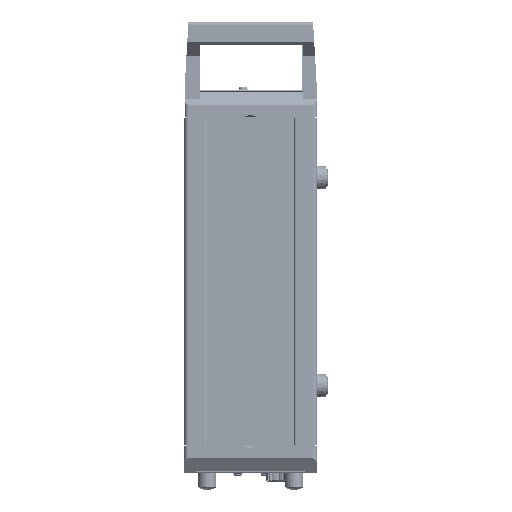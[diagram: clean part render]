
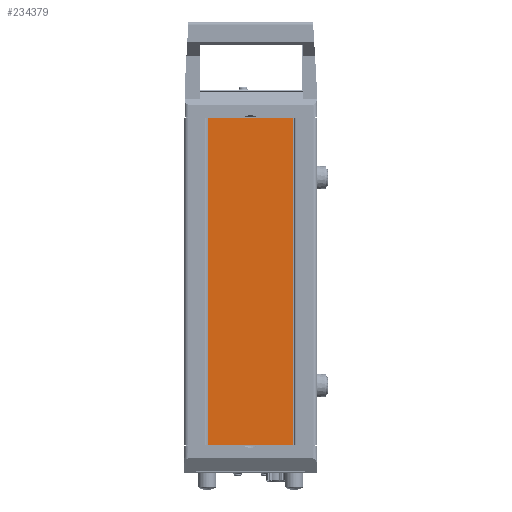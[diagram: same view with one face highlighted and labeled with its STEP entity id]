
A CAD part, left-side view. The second image highlights one B-rep face of the part: STEP entity #234379.
In plain terms, the highlighted planar face has unit normal (1, 0, 0).
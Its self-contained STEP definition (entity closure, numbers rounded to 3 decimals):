
#1627 = CARTESIAN_POINT ( 'NONE',  ( -170.56, 28.45, -206.2 ) ) ;
#14020 = FACE_OUTER_BOUND ( 'NONE', #296469, .T. ) ;
#28889 = CARTESIAN_POINT ( 'NONE',  ( -170.56, -28.45, 11.2 ) ) ;
#97950 = CARTESIAN_POINT ( 'NONE',  ( -170.56, -28.45, -206.2 ) ) ;
#110036 = PLANE ( 'NONE',  #292388 ) ;
#126825 = EDGE_CURVE ( 'NONE', #217339, #138151, #144442, .T. ) ;
#126898 = CARTESIAN_POINT ( 'NONE',  ( -170.56, -28.45, -206.2 ) ) ;
#127882 = CARTESIAN_POINT ( 'NONE',  ( -170.56, 28.45, 11.2 ) ) ;
#134084 = CARTESIAN_POINT ( 'NONE',  ( -170.56, 28.45, -206.2 ) ) ;
#138151 = VERTEX_POINT ( 'NONE', #126898 ) ;
#144442 = LINE ( 'NONE', #97950, #171517 ) ;
#145654 = DIRECTION ( 'NONE',  ( 0., 0., 1. ) ) ;
#149183 = VERTEX_POINT ( 'NONE', #263650 ) ;
#154180 = VECTOR ( 'NONE', #296640, 1000. ) ;
#158041 = DIRECTION ( 'NONE',  ( -1., 0., 0. ) ) ;
#164381 = VERTEX_POINT ( 'NONE', #193712 ) ;
#171517 = VECTOR ( 'NONE', #286822, 1000. ) ;
#171734 = ORIENTED_EDGE ( 'NONE', *, *, #172407, .T. ) ;
#172407 = EDGE_CURVE ( 'NONE', #138151, #164381, #208306, .T. ) ;
#172830 = LINE ( 'NONE', #127882, #272426 ) ;
#193712 = CARTESIAN_POINT ( 'NONE',  ( -170.56, 28.45, -206.2 ) ) ;
#199903 = DIRECTION ( 'NONE',  ( 0., 0., 1. ) ) ;
#204448 = CARTESIAN_POINT ( 'NONE',  ( -170.56, -28.45, 11.2 ) ) ;
#208306 = LINE ( 'NONE', #134084, #154180 ) ;
#216415 = EDGE_CURVE ( 'NONE', #164381, #149183, #286503, .T. ) ;
#217339 = VERTEX_POINT ( 'NONE', #28889 ) ;
#228338 = VECTOR ( 'NONE', #145654, 1000. ) ;
#234348 = ORIENTED_EDGE ( 'NONE', *, *, #126825, .T. ) ;
#234379 = ADVANCED_FACE ( 'NONE', ( #14020 ), #110036, .F. ) ;
#263650 = CARTESIAN_POINT ( 'NONE',  ( -170.56, 28.45, 11.2 ) ) ;
#270257 = DIRECTION ( 'NONE',  ( 0., -1., 0. ) ) ;
#272426 = VECTOR ( 'NONE', #270257, 1000. ) ;
#280076 = ORIENTED_EDGE ( 'NONE', *, *, #216415, .T. ) ;
#286503 = LINE ( 'NONE', #1627, #228338 ) ;
#286822 = DIRECTION ( 'NONE',  ( 0., 0., -1. ) ) ;
#290186 = ORIENTED_EDGE ( 'NONE', *, *, #304473, .T. ) ;
#292388 = AXIS2_PLACEMENT_3D ( 'NONE', #204448, #158041, #199903 ) ;
#296469 = EDGE_LOOP ( 'NONE', ( #171734, #280076, #290186, #234348 ) ) ;
#296640 = DIRECTION ( 'NONE',  ( 0., 1., 0. ) ) ;
#304473 = EDGE_CURVE ( 'NONE', #149183, #217339, #172830, .T. ) ;
